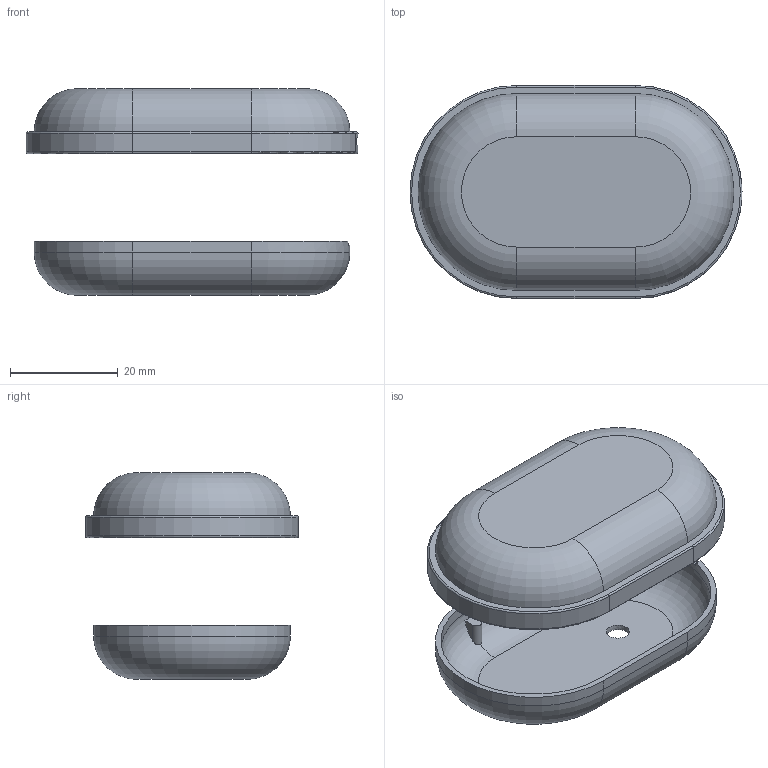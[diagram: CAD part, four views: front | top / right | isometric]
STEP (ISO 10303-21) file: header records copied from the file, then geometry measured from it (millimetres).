
FILE_DESCRIPTION(/* description */ (''),/* implementation_level */ '2;1');
FILE_NAME(/* name */ 'CP001.stp',/* time_stamp */ '2019-05-05T11:49:08+08:00',/* author */ (''),/* organization */ (''),/* preprocessor_version */ 'ST-DEVELOPER v15',/* originating_system */ 'SIEMENS PLM Software NX 8.5',/* authorisation */ '');
FILE_SCHEMA (('AUTOMOTIVE_DESIGN { 1 0 10303 214 3 1 1 1 }'));
Length unit declared in the file: millimetre
Products named in the file (1): cp0001_mold_stp
Bounding box: 61.69 x 39.59 x 38.39 mm (x, y, z)
Volume: 6529.3 mm3; surface area: 12560.9 mm2
Topology: 2 solids, 2 shells, 103 faces, 264 edges, 170 vertices
Faces by surface type: plane 53, cylinder 31, torus 12, extrusion 4, cone 3
Full cylindrical faces by diameter (mm): 12.06 x1
Entity records: 4060 total; most frequent: CARTESIAN_POINT 848, DIRECTION 544, ORIENTED_EDGE 516, EDGE_CURVE 258, AXIS2_PLACEMENT_3D 208, VERTEX_POINT 168, VECTOR 128, LINE 124
